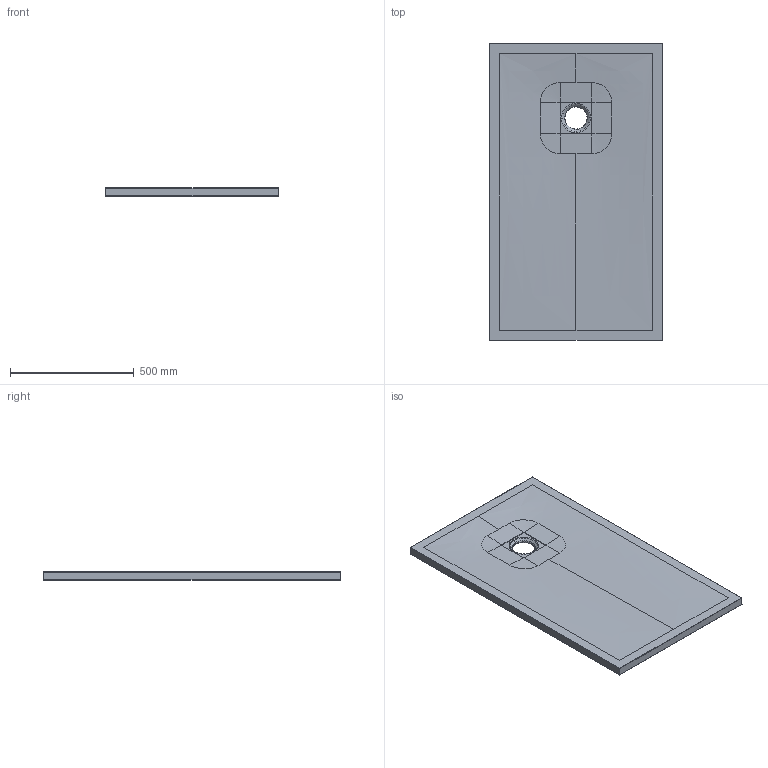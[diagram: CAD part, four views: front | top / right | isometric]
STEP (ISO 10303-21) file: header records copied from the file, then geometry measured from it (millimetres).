
FILE_DESCRIPTION(/* description */ (''),/* implementation_level */ '2;1');
FILE_NAME(/* name */ '1200X700.stp',/* time_stamp */ '2022-02-25T14:25:13+01:00',/* author */ (''),/* organization */ (''),/* preprocessor_version */ 'ST-DEVELOPER v18.1',/* originating_system */ 'SIEMENS PLM Software NX 1973',/* authorisation */ '');
FILE_SCHEMA (('AUTOMOTIVE_DESIGN { 1 0 10303 214 3 1 1 1 }'));
Length unit declared in the file: millimetre
Products named in the file (1): Cava2B7C939Cut5x
Bounding box: 699.98 x 1199.98 x 33 mm (x, y, z)
Volume: 24336717.1 mm3; surface area: 1779199.2 mm2
Topology: 1 solids, 1 shells, 58 faces, 135 edges, 74 vertices
Faces by surface type: bspline 22, cylinder 14, plane 13, sphere 8, cone 1
Full cylindrical faces by diameter (mm): 8 x2
Entity records: 4021 total; most frequent: CARTESIAN_POINT 2922, ORIENTED_EDGE 246, DIRECTION 164, EDGE_CURVE 123, VERTEX_POINT 73, AXIS2_PLACEMENT_3D 70, B_SPLINE_CURVE_WITH_KNOTS 66, EDGE_LOOP 66
